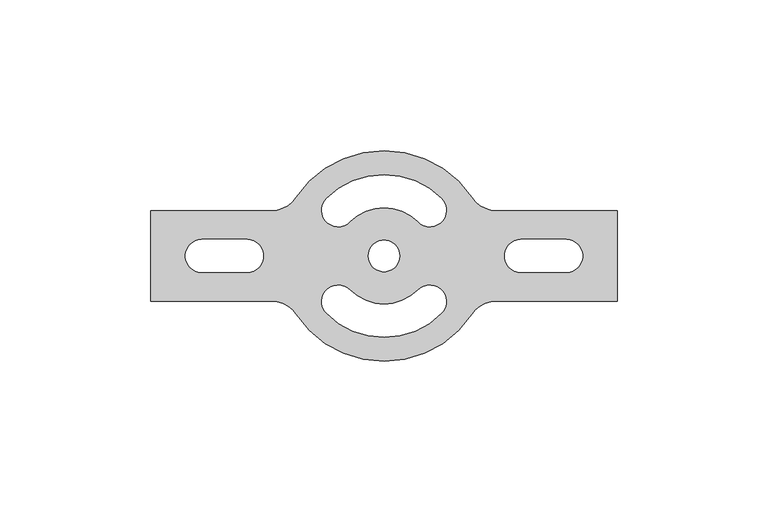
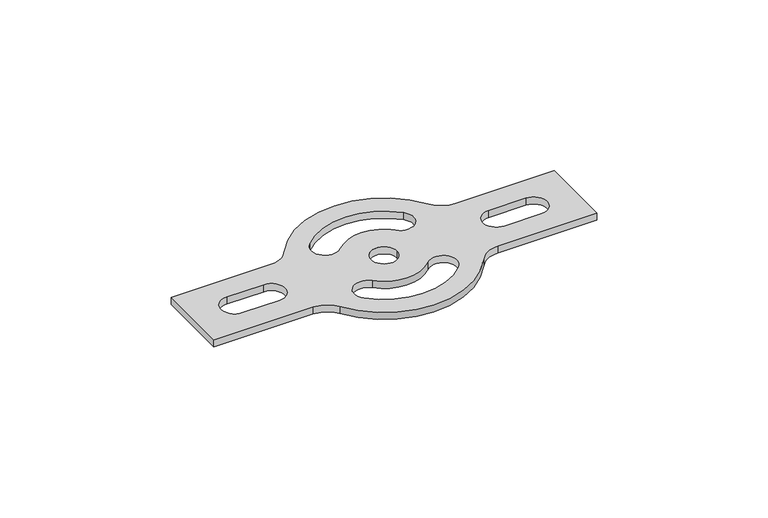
"""IFC4 building model written with IfcOpenShell, lengths in millimetres: light fixture geometry, GENILED_Светильник светодиодный_Kolokol : Kolokol 120Вт (80-120Вт) 5000К 75Ra Закаленное стекло."""

from ifc_helpers import new_model, si_unit, point, frame, frame_2d, origin, origin_2d, place, context, project, spatial, polyline, circle_curve, trimmed, segment, composite_curve, outline, extrude, source, transform, mapped, element, save


def light_fixture_23b743e3(model_context):
    return source(origin(), model_context, "Body", "SweptSolid", [
        extrude(outline(composite_curve([segment(polyline([(-77.5382388, -15.0000002), (-77.5382388, 15.0000002), (-37.4165704, 15.0000002)]), True, "CONTINUOUS"), segment(trimmed(circle_curve(frame_2d((-37.4165704, 24.9999925)), 9.9999923), [point((-37.4165704, 15.0000002))], [point((-29.1017821, 19.444442))], True, "CARTESIAN"), True, "CONTINUOUS"), segment(trimmed(circle_curve(origin_2d(), 35.0000007), [point((-29.1017821, 19.444442))], [point((29.1017821, 19.444442))], False, "CARTESIAN"), True, "CONTINUOUS"), segment(trimmed(circle_curve(frame_2d((37.4165704, 24.9999925)), 9.9999923), [point((29.1017821, 19.444442))], [point((37.4165704, 15.0000002))], True, "CARTESIAN"), True, "CONTINUOUS"), segment(polyline([(37.4165704, 15.0000002), (77.5382388, 15.0000002), (77.5382388, -15.0000002), (37.4165704, -15.0000002)]), True, "CONTINUOUS"), segment(trimmed(circle_curve(frame_2d((37.4165704, -24.9999925)), 9.9999923), [point((37.4165704, -15.0000002))], [point((29.1017821, -19.444442))], True, "CARTESIAN"), True, "CONTINUOUS"), segment(trimmed(circle_curve(origin_2d(), 35.0000007), [point((29.1017821, -19.444442))], [point((-29.1017821, -19.444442))], False, "CARTESIAN"), True, "CONTINUOUS"), segment(trimmed(circle_curve(frame_2d((-37.4165704, -24.9999925)), 9.9999923), [point((-29.1017821, -19.444442))], [point((-37.4165704, -15.0000002))], True, "CARTESIAN"), True, "CONTINUOUS"), segment(polyline([(-37.4165704, -15.0000002), (-77.5382388, -15.0000002)]), True, "CONTINUOUS")], self_intersect=False), holes=[composite_curve([segment(polyline([(-45.5000006, 5.499997), (-60.5000018, 5.499997)]), True, "CONTINUOUS"), segment(trimmed(circle_curve(frame_2d((-60.5000018, -3e-06)), 5.5), [point((-60.5000018, 5.499997))], [point((-60.5000018, -5.500003))], True, "CARTESIAN"), True, "CONTINUOUS"), segment(polyline([(-60.5000018, -5.500003), (-45.5000006, -5.500003)]), True, "CONTINUOUS"), segment(trimmed(circle_curve(frame_2d((-45.5000006, -3e-06)), 5.5), [point((-45.5000006, -5.500003))], [point((-45.5000006, 5.499997))], True, "CARTESIAN"), True, "CONTINUOUS")], self_intersect=False), composite_curve([segment(trimmed(circle_curve(frame_2d((45.5000006, -3e-06)), 5.5), [point((45.5000006, 5.499997))], [point((45.5000006, -5.500003))], True, "CARTESIAN"), True, "CONTINUOUS"), segment(polyline([(45.5000006, -5.500003), (60.5000018, -5.500003)]), True, "CONTINUOUS"), segment(trimmed(circle_curve(frame_2d((60.5000018, -3e-06)), 5.5), [point((60.5000018, -5.500003))], [point((60.5000018, 5.499997))], True, "CARTESIAN"), True, "CONTINUOUS"), segment(polyline([(60.5000018, 5.499997), (45.5000006, 5.499997)]), True, "CONTINUOUS")], self_intersect=False), composite_curve([segment(trimmed(circle_curve(origin_2d(), 26.9989532), [point((19.0911412, 19.0911445))], [point((-19.0911412, 19.0911445))], True, "CARTESIAN"), True, "CONTINUOUS"), segment(trimmed(circle_curve(frame_2d((-15.202796, 15.2027987)), 5.4989509), [point((-19.0911412, 19.0911445))], [point((-11.3144509, 11.3144529))], True, "CARTESIAN"), True, "CONTINUOUS"), segment(trimmed(circle_curve(origin_2d(), 16.0010513), [point((-11.3144509, 11.3144529))], [point((11.3144509, 11.3144529))], False, "CARTESIAN"), True, "CONTINUOUS"), segment(trimmed(circle_curve(frame_2d((15.202796, 15.2027987)), 5.4989509), [point((11.3144509, 11.3144529))], [point((19.0911412, 19.0911445))], True, "CARTESIAN"), True, "CONTINUOUS")], self_intersect=False), composite_curve([segment(trimmed(circle_curve(origin_2d(), 16.0010513), [point((11.3144509, -11.3144529))], [point((-11.3144509, -11.3144529))], False, "CARTESIAN"), True, "CONTINUOUS"), segment(trimmed(circle_curve(frame_2d((-15.202796, -15.2027987)), 5.4989509), [point((-11.3144509, -11.3144529))], [point((-19.0911412, -19.0911445))], True, "CARTESIAN"), True, "CONTINUOUS"), segment(trimmed(circle_curve(origin_2d(), 26.9989532), [point((-19.0911412, -19.0911445))], [point((19.0911412, -19.0911445))], True, "CARTESIAN"), True, "CONTINUOUS"), segment(trimmed(circle_curve(frame_2d((15.202796, -15.2027987)), 5.4989509), [point((19.0911412, -19.0911445))], [point((11.3144509, -11.3144529))], True, "CARTESIAN"), True, "CONTINUOUS")], self_intersect=False), composite_curve([segment(trimmed(circle_curve(origin_2d(), 5.2500001), [point((-5.2500001, 0.0))], [point((5.2500001, 0.0))], True, "CARTESIAN"), True, "CONTINUOUS"), segment(trimmed(circle_curve(origin_2d(), 5.2500001), [point((5.2500001, 0.0))], [point((-5.2500001, 0.0))], True, "CARTESIAN"), True, "CONTINUOUS")], self_intersect=False)]), frame((0.0, 0.0, 216.0), z_axis=(0.0, 0.0, 1.0), x_axis=(1.0, 0.0, 0.0)), (0.0, 0.0, 1.0), 3.0),
    ])


if __name__ == "__main__":
    model = new_model("IFC4")
    model_context = context("Model", 3, world=origin())
    ifc_project = project(units=[si_unit("LENGTHUNIT", "METRE", prefix="MILLI")], contexts=[model_context])
    site = spatial("IfcSite", under=ifc_project)
    building = spatial("IfcBuilding", under=site)
    placement = place(None, origin())
    light_fixture_shape = light_fixture_23b743e3(model_context)
    element("IfcLightFixture", 1, ObjectType="GENILED_Светильник светодиодный_Kolokol : Kolokol 120Вт (80-120Вт) 5000К 75Ra Закаленное стекло", at=placement, inside=building, context=model_context, shape_type="MappedRepresentation", body=[
        mapped(light_fixture_shape, transform((0.0, 0.0, 0.0), x_axis=(1.0, 0.0, 0.0), y_axis=(0.0, 1.0, 0.0), z_axis=(0.0, 0.0, 1.0))),
    ])
    save(model, "model.ifc")
